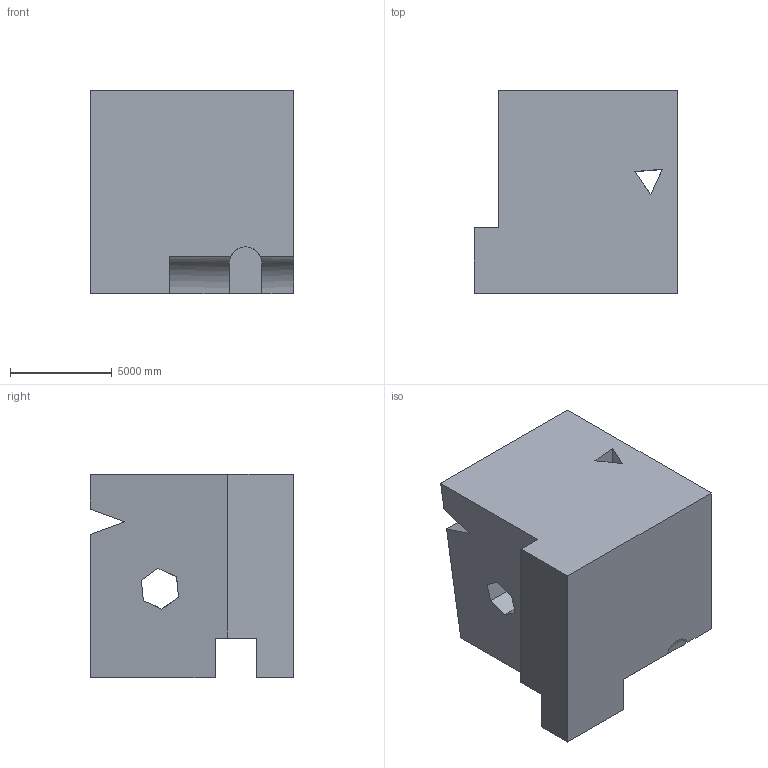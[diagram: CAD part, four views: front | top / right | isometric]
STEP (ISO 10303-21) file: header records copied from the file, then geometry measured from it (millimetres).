
FILE_DESCRIPTION (( 'STEP AP203' ), '1' );
FILE_NAME ('836.STEP', '2022-07-29T13:35:12', ( 'user' ), ( '' ), 'SwSTEP 2.0', 'SolidWorks 2021', '' );
FILE_SCHEMA (( 'CONFIG_CONTROL_DESIGN' ));
Length unit declared in the file: centimetre
Products named in the file (1): 836
Bounding box: 10000 x 10000 x 10000 mm (x, y, z)
Volume: 738177093956.5 mm3; surface area: 761359293.8 mm2
Topology: 1 solids, 1 shells, 56 faces, 164 edges, 109 vertices
Faces by surface type: plane 45, cylinder 11
Entity records: 1997 total; most frequent: CARTESIAN_POINT 446, ORIENTED_EDGE 328, DIRECTION 284, EDGE_CURVE 164, LINE 118, VECTOR 118, VERTEX_POINT 109, AXIS2_PLACEMENT_3D 83
